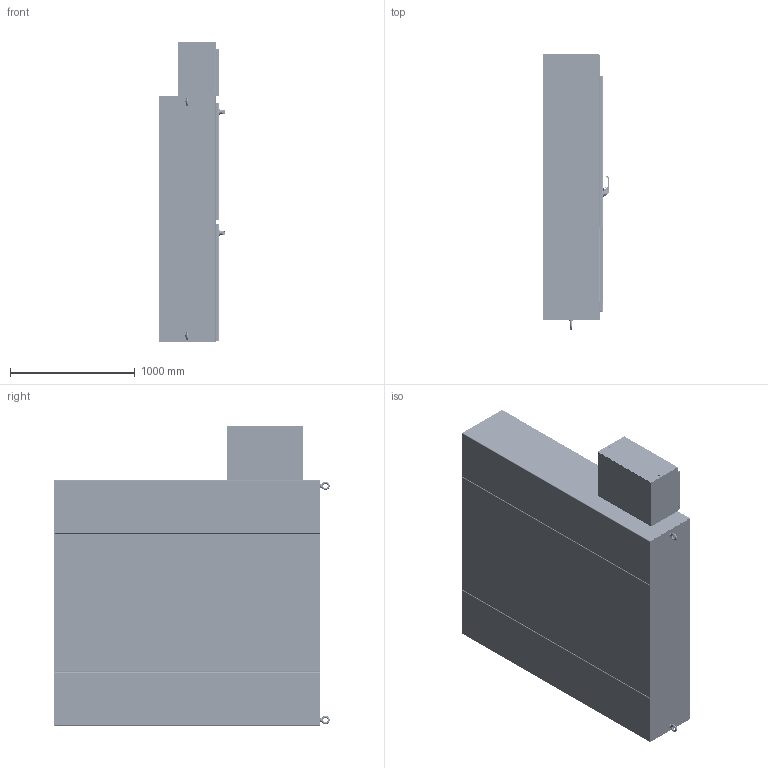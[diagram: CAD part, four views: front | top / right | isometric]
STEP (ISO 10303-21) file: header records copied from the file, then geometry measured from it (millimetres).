
FILE_DESCRIPTION((''),'2;1');
FILE_NAME('MODEL-430_ASM','2024-09-30T15:55:34',('richards'),('SAGINAW CONTROL & ENGINEERING'),'CREO PARAMETRIC BY PTC INC, 2021284','CREO PARAMETRIC BY PTC INC, 2021284','');
FILE_SCHEMA(('AUTOMOTIVE_DESIGN { 1 0 10303 214 1 1 1 1 }'));
Length unit declared in the file: inch
Products named in the file (132): MODEL-430-TP; MODEL-430-R-SD; MODEL-430-L-SD; MODEL-430-BTM; MODEL-430-BCK; MODEL-430-M-DR; 100837; 111267; 100882; 100957_SCREW_MTG; 100957_PADLOCK_CATCH; 100957_SCREW_LARGE; 100957_INSERT_SHAFT; 100957_INSERT_PH; 100957_GASKET; 100957_O-RING; 100957_BASE; 100957_SPRING; 100957_HANDLE; 100957_CAM_SHAFT; 100957_HANDLE_ASM; 100957_CAM_ADAPTER; 100957_EARTH_NUT; 100957_FLANGE_NUT; 100957_CAM_NUT; 100957_ASM; 102237; 100030; 102237_ASM; MODEL-430-ROD-UPR-MD; 128146; 128145; 128144; 102482; MODEL-430-ROD-UPR-MD_ASM; 128143; 112504; MODEL-430-ROD-LWR-MD; MODEL-430-ROD-LWR-MD_ASM; MODEL-430-PR-GSKT-M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
Assembly tree (340 placements, depth 5):
  MODEL-430_ASM
    MODEL-430-TP
    MODEL-430-R-SD
    MODEL-430-L-SD
    MODEL-430-BTM
    MODEL-430-BCK
    MODEL-430-M-DOOR-ASSY_ASM
      MODEL-430-M-DR
      100837  x7
      111267
      100882  x12
      100957_ASM
        100957_SCREW_MTG
        100957_PADLOCK_CATCH
        100957_SCREW_LARGE  x2
        100957_INSERT_SHAFT
        100957_INSERT_PH
        100957_GASKET
        100957_O-RING
        100957_BASE
        100957_SPRING
        100957_HANDLE_ASM
          100957_HANDLE
          100957_CAM_SHAFT
        100957_CAM_ADAPTER
        100957_EARTH_NUT
        100957_FLANGE_NUT
        100957_CAM_NUT
      102237_ASM
        102237
        100030  x2
      MODEL-430-ROD-UPR-MD_ASM
        MODEL-430-ROD-UPR-MD
        128146
        128145
        128144
        102482  x2
      128143  x2
      112504  x2
      MODEL-430-ROD-LWR-MD_ASM
        MODEL-430-ROD-LWR-MD
        128146
        128145
        128144
        102482  x2
      MODEL-430-PR-GSKT-M
      128257_ASM  x4
        128257
      126393  x4
      102483  x4
      101369_ASM  x4
        101369
        101369-STUD
      101221  x4
    MODEL-430-S-DOOR-ASSY_ASM
      MODEL-430-S-DR
      100837  x3
      100957_ASM
        100957_SCREW_MTG
        100957_PADLOCK_CATCH
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Bounding box: 535.27 x 2208.4 x 2406.65 mm (x, y, z)
Volume: 58537711 mm3; surface area: 39283675.9 mm2
Topology: 380 solids, 380 shells, 32776 faces, 82736 edges, 50878 vertices
Faces by surface type: plane 11170, cylinder 8508, bspline 7285, torus 2779, cone 1589, sphere 1120, extrusion 325
Entity records: 692804 total; most frequent: CARTESIAN_POINT 292829, ORIENTED_EDGE 60514, DIRECTION 57726, PRESENTATION_STYLE_ASSIGNMENT 30756, STYLED_ITEM 30371, CURVE_STYLE 30257, EDGE_CURVE 30257, AXIS2_PLACEMENT_3D 21363
